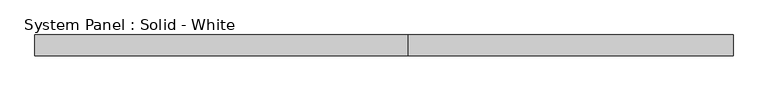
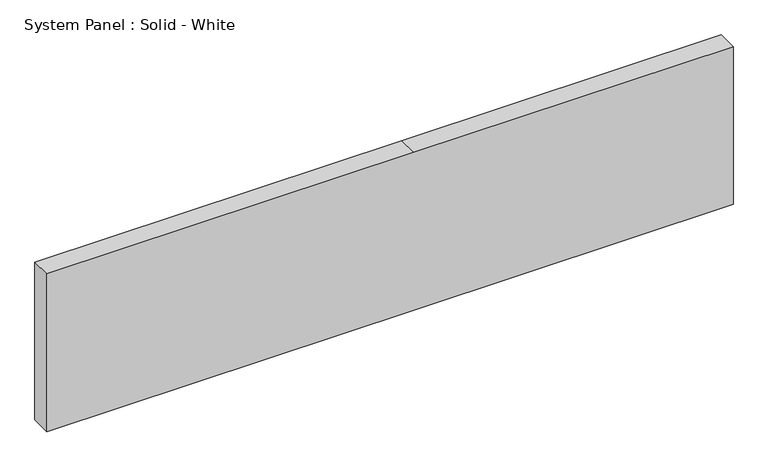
"""IFC4 building model written with IfcOpenShell, lengths in millimetres: plate geometry, System Panel : Solid - White."""

from ifc_helpers import new_model, si_unit, frame, origin, place, context, project, spatial, polyline, outline, extrude, source, transform, mapped, element, save


def system_panel_solid_white_5ef82af7(model_context):
    return source(origin(), model_context, "Body", "SweptSolid", [
        extrude(outline(polyline([(0.0, -1058.4447942), (0.0, 73.7644068), (0.0, 1058.4447942), (514.35, 1058.4447942), (514.35, 73.7644068), (514.35, -1058.4447942), (0.0, -1058.4447942)])), frame((0.0, -19.05, 0.0), z_axis=(0.0, 1.0, 0.0), x_axis=(0.0, 0.0, 1.0)), (0.0, 0.0, 1.0), 63.5),
    ])


if __name__ == "__main__":
    model = new_model("IFC4")
    model_context = context("Model", 3, world=origin())
    ifc_project = project(units=[si_unit("LENGTHUNIT", "METRE", prefix="MILLI")], contexts=[model_context])
    site = spatial("IfcSite", under=ifc_project)
    building = spatial("IfcBuilding", under=site)
    placement = place(None, origin())
    system_panel_solid_white_shape = system_panel_solid_white_5ef82af7(model_context)
    element("IfcPlate", 1, ObjectType="System Panel : Solid - White", at=placement, inside=building, context=model_context, shape_type="MappedRepresentation", body=[
        mapped(system_panel_solid_white_shape, transform((0.0, 0.0, 0.0), x_axis=(1.0, 0.0, 0.0), y_axis=(0.0, 1.0, 0.0), z_axis=(0.0, 0.0, 1.0))),
    ])
    save(model, "model.ifc")
